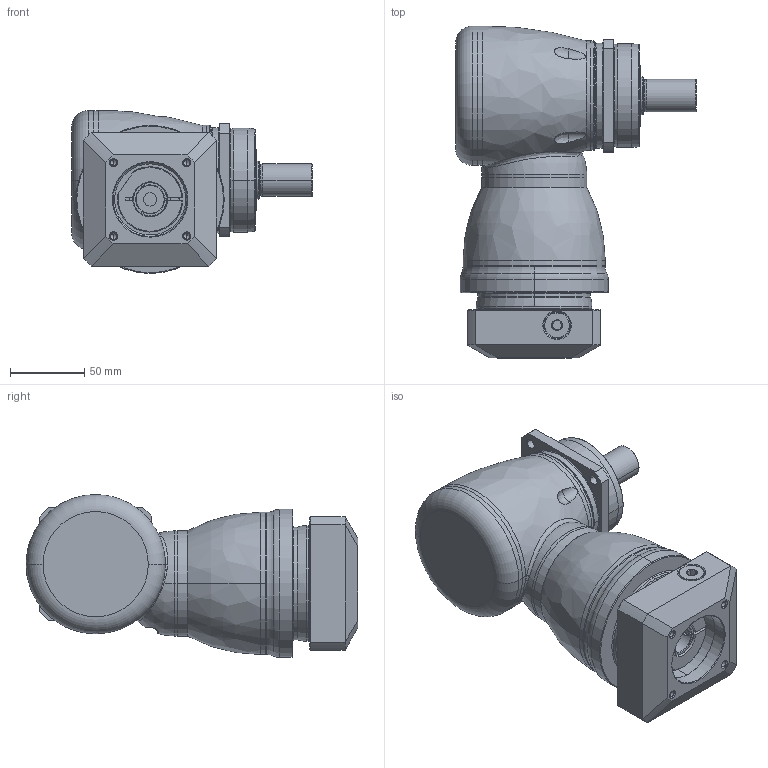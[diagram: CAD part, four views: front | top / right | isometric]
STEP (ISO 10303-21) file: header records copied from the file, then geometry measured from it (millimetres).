
FILE_DESCRIPTION((''),'2;1');
FILE_NAME('KF075_1ST_19-P0409400101_ASM','2016-06-21T',('d01943'),(''),'PRO/ENGINEER BY PARAMETRIC TECHNOLOGY CORPORATION, 2008410','PRO/ENGINEER BY PARAMETRIC TECHNOLOGY CORPORATION, 2008410','');
FILE_SCHEMA(('CONFIG_CONTROL_DESIGN'));
Length unit declared in the file: millimetre
Products named in the file (11): P1008300002; P1804300001; P0915300001; P1315300001; P1007300001; P1318300201; P0409400101; P0503400006; P0912302001; 21711412017; KF075_1ST_19-P0409400101_ASM
Assembly tree (10 placements, depth 2):
  KF075_1ST_19-P0409400101_ASM
    P1008300002
    P1804300001
    P0915300001
    P1315300001
    P1007300001
    P1318300201
    P0409400101
    P0503400006
    P0912302001
    21711412017
Bounding box: 162.5 x 224 x 110 mm (x, y, z)
Volume: 1182607.8 mm3; surface area: 201917.3 mm2
Topology: 11 solids, 11 shells, 469 faces, 1077 edges, 641 vertices
Faces by surface type: cylinder 149, cone 108, plane 86, torus 74, bspline 50, sphere 2
Entity records: 20758 total; most frequent: CARTESIAN_POINT 10160, DIRECTION 2294, ORIENTED_EDGE 2092, EDGE_CURVE 1046, AXIS2_PLACEMENT_3D 984, VERTEX_POINT 634, CIRCLE 544, EDGE_LOOP 530
